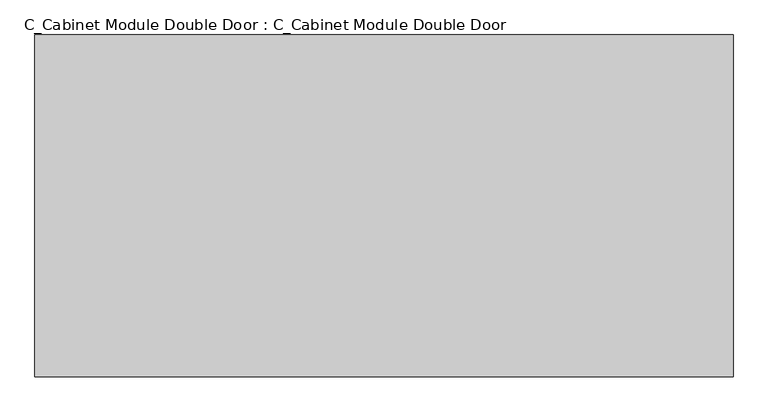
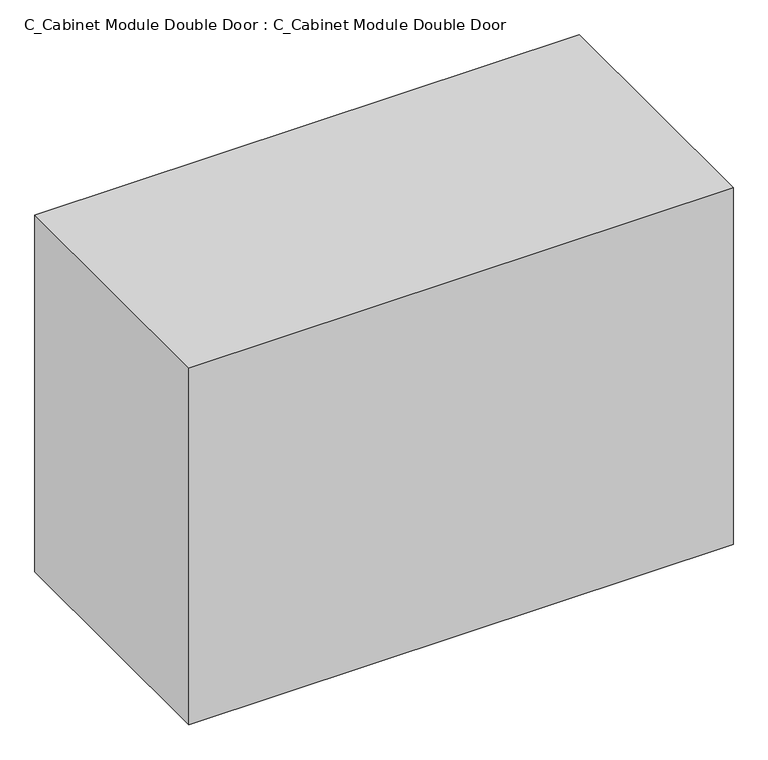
"""IFC4 building model written with IfcOpenShell, lengths in millimetres: furniture geometry, C_Cabinet Module Double Door : C_Cabinet Module Double Door."""

from ifc_helpers import new_model, si_unit, origin, origin_with_axes, place, context, project, spatial, polyline, outline, extrude, source, transform, mapped, element, save


def c_cabinet_module_double_door_c_cabinet_module_double_door_f981fd00(model_context):
    return source(origin(), model_context, "Body", "SweptSolid", [
        extrude(outline(polyline([(622.3496094, 0.0), (-622.3496094, 0.0), (-622.3496094, 609.6), (622.3496094, 609.6), (622.3496094, 0.0)])), origin_with_axes(), (0.0, 0.0, 1.0), 863.6),
    ])


if __name__ == "__main__":
    model = new_model("IFC4")
    model_context = context("Model", 3, world=origin())
    ifc_project = project(units=[si_unit("LENGTHUNIT", "METRE", prefix="MILLI")], contexts=[model_context])
    site = spatial("IfcSite", under=ifc_project)
    building = spatial("IfcBuilding", under=site)
    placement = place(None, origin())
    c_cabinet_module_double_door_c_cabinet_module_double_door_shape = c_cabinet_module_double_door_c_cabinet_module_double_door_f981fd00(model_context)
    element("IfcFurniture", 1, ObjectType="C_Cabinet Module Double Door : C_Cabinet Module Double Door", at=placement, inside=building, context=model_context, shape_type="MappedRepresentation", body=[
        mapped(c_cabinet_module_double_door_c_cabinet_module_double_door_shape, transform((0.0, 0.0, 0.0), x_axis=(1.0, 0.0, 0.0), y_axis=(0.0, 1.0, 0.0), z_axis=(0.0, 0.0, 1.0))),
    ])
    save(model, "model.ifc")
